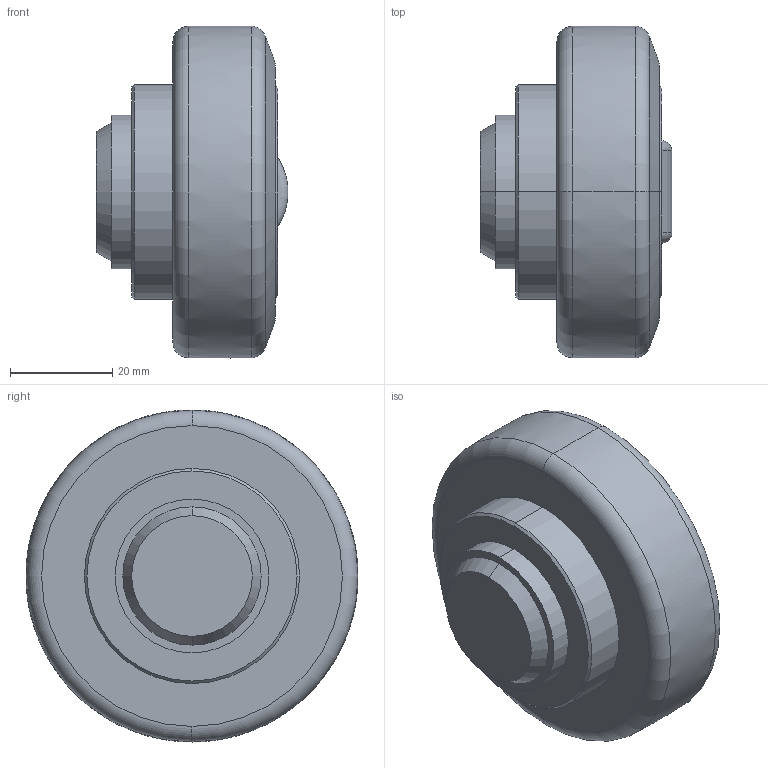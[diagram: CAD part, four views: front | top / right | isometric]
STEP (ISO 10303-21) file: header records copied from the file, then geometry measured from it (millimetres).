
FILE_DESCRIPTION (( 'STEP AP214' ), '1' );
FILE_NAME ('4.0054 PR.STEP', '2013-12-05T08:25:33', ( 'usuario' ), ( 'Hewlett-Packard Company' ), 'SwSTEP 2.0', 'SolidWorks 2017', '' );
FILE_SCHEMA (( 'AUTOMOTIVE_DESIGN' ));
Length unit declared in the file: millimetre
Products named in the file (1): 4.0054 PR
Bounding box: 37.46 x 64.79 x 64.8 mm (x, y, z)
Volume: 79868.2 mm3; surface area: 11400.8 mm2
Topology: 1 solids, 1 shells, 27 faces, 52 edges, 32 vertices
Faces by surface type: cone 8, torus 8, plane 6, cylinder 5
Entity records: 794 total; most frequent: CARTESIAN_POINT 178, DIRECTION 142, ORIENTED_EDGE 104, AXIS2_PLACEMENT_3D 64, EDGE_CURVE 52, CIRCLE 36, EDGE_LOOP 32, VERTEX_POINT 32
